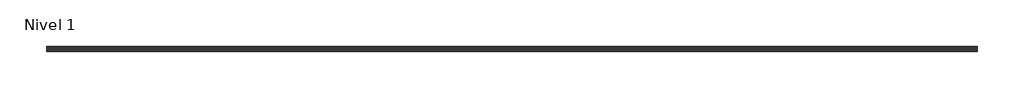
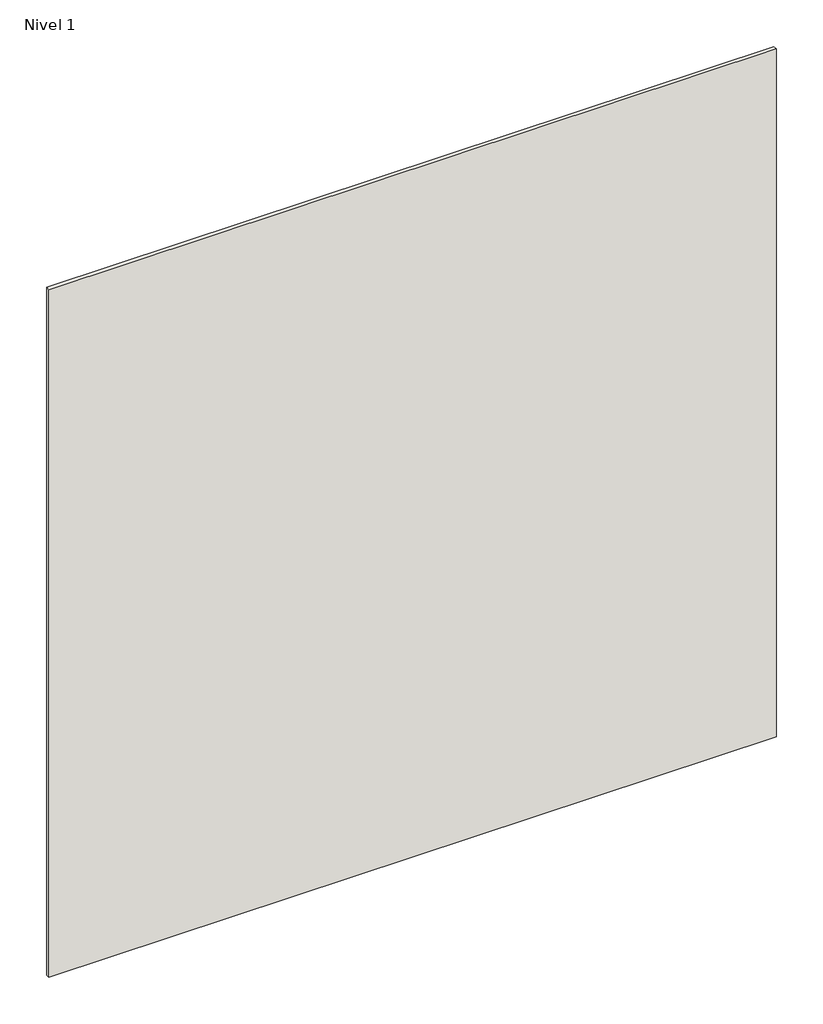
# One storey: 1 wall.
"""IFC4 building model written with IfcOpenShell, lengths in millimetres."""

from ifc_helpers import new_model, si_unit, origin, origin_with_axes, place, context, project, spatial, polyline, outline, extrude, element, save

model = new_model("IFC4")

# Units and contexts
model_context = context("Model", 3, world=origin())
ifc_project = project(units=[si_unit("LENGTHUNIT", "METRE", prefix="MILLI")], contexts=[model_context])

# Site, building, storey
site = spatial("IfcSite", under=ifc_project)
building = spatial("IfcBuilding", under=site)
storey = spatial("IfcBuildingStorey", under=building, Name="Nivel 1", Elevation=0.0)

# Wall
placement = place(None, origin())
element("IfcWall", 1, ObjectType="Grespania - Fosil 315x1000 Bone", at=placement, inside=storey, context=model_context, shape_type="SweptSolid", body=[
    extrude(outline(polyline([(2344.0919037, 6894.6717724), (-455.9080963, 6894.6717724), (-455.9080963, 6909.6717724), (2344.0919037, 6909.6717724), (2344.0919037, 6894.6717724)])), origin_with_axes(), (0.0, 0.0, 1.0), 2800.0),
])

save(model, "model.ifc")
